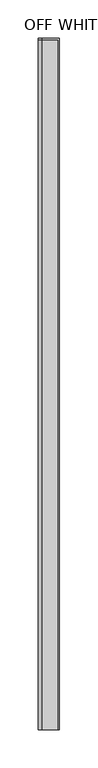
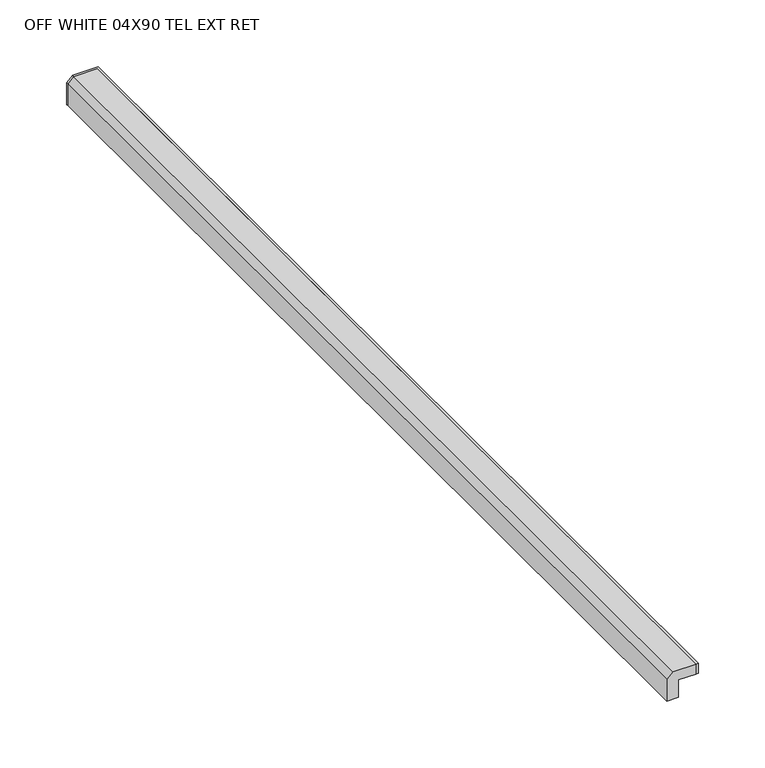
"""IFC4 building model written with IfcOpenShell, lengths in millimetres: proxy geometry, BORDA MINI KALKS OFF WHITE 04X90 TEL EXT RET : OFF WHITE 04X90 TEL EXT RET."""

from ifc_helpers import new_model, si_unit, frame, origin, place, context, project, spatial, polyline, outline, extrude, faceted_brep, source, transform, mapped, element, save


def off_white_04x90_tel_ext_ret_b61131d4(model_context):
    return source(origin(), model_context, "Body", "SolidModel", [
        extrude(outline(polyline([(0.0, -127.0), (0.0, -147.0), (-5.0, -152.0), (-25.0, -152.0), (-25.0, -142.0), (-9.0, -142.0), (-9.0, -127.0), (0.0, -127.0)])), frame((0.0, -446.0, 0.0), z_axis=(0.0, 1.0, 0.0), x_axis=(0.0, 0.0, 1.0)), (0.0, 0.0, 1.0), 896.0),
        faceted_brep([(-127.0, 450.0, 0.0), (-127.0, -446.0, 0.0), (-125.0, -446.0, 0.0), (-125.0, 452.0, 0.0), (-147.0, 452.0, 0.0), (-147.0, 450.0, 0.0), (-127.0, 450.0, -9.0), (-142.0, 450.0, -9.0), (-142.0, 452.0, -9.0), (-125.0, 452.0, -9.0), (-125.0, -446.0, -9.0), (-127.0, -446.0, -9.0), (-142.0, 452.0, -25.0), (-152.0, 452.0, -25.0), (-152.0, 452.0, -5.0), (-152.0, 450.0, -25.0), (-152.0, 450.0, -5.0), (-142.0, 450.0, -25.0)], [[[0, 1, 2, 3, 4, 5]], [[6, 7, 8, 9, 10, 11]], [[3, 9, 8, 12, 13, 14, 4]], [[9, 3, 2, 10]], [[13, 15, 16, 14]], [[6, 0, 5, 16, 15, 17, 7]], [[12, 17, 15, 13]], [[17, 12, 8, 7]], [[5, 4, 14, 16]], [[0, 6, 11, 1]], [[2, 1, 11, 10]]]),
    ])


if __name__ == "__main__":
    model = new_model("IFC4")
    model_context = context("Model", 3, world=origin())
    ifc_project = project(units=[si_unit("LENGTHUNIT", "METRE", prefix="MILLI")], contexts=[model_context])
    site = spatial("IfcSite", under=ifc_project)
    building = spatial("IfcBuilding", under=site)
    placement = place(None, origin())
    off_white_04x90_tel_ext_ret_shape = off_white_04x90_tel_ext_ret_b61131d4(model_context)
    element("IfcBuildingElementProxy", 1, Name="BORDA MINI KALKS OFF WHITE 04X90 TEL EXT RET : OFF WHITE 04X90 TEL EXT RET", ObjectType="BORDA MINI KALKS OFF WHITE 04X90 TEL EXT RET : OFF WHITE 04X90 TEL EXT RET", at=placement, inside=building, context=model_context, shape_type="MappedRepresentation", body=[
        mapped(off_white_04x90_tel_ext_ret_shape, transform((0.0, 0.0, 0.0), x_axis=(1.0, 0.0, 0.0), y_axis=(0.0, 1.0, 0.0), z_axis=(0.0, 0.0, 1.0))),
    ])
    save(model, "model.ifc")
